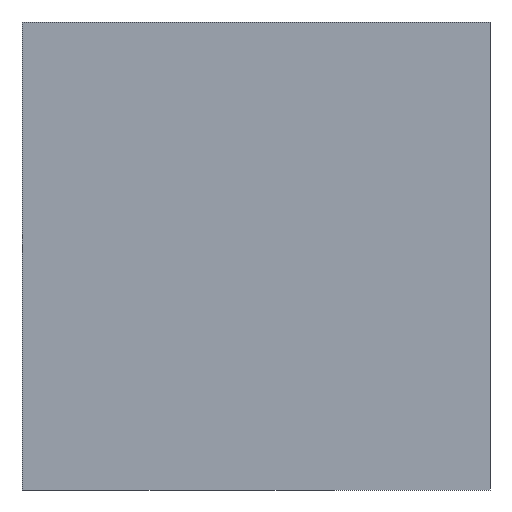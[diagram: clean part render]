
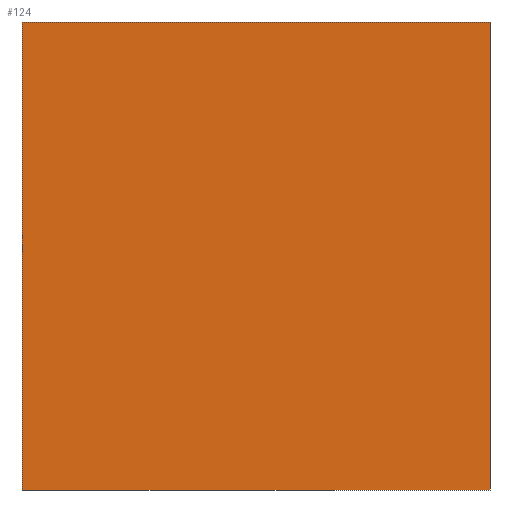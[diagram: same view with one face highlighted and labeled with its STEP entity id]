
A CAD part, left-side view. The second image highlights one B-rep face of the part: STEP entity #124.
In plain terms, the highlighted planar face has unit normal (-1, 0, 0).
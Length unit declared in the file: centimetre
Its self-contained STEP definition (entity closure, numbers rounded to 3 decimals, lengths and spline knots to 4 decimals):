
#19 = AXIS2_PLACEMENT_3D ( 'NONE', #115, #509, #357 ) ;
#30 = EDGE_CURVE ( 'NONE', #206, #283, #137, .T. ) ;
#34 = CARTESIAN_POINT ( 'NONE',  ( 0., 1000., 0. ) ) ;
#46 = ORIENTED_EDGE ( 'NONE', *, *, #30, .T. ) ;
#61 = VECTOR ( 'NONE', #113, 100. ) ;
#67 = VERTEX_POINT ( 'NONE', #216 ) ;
#74 = LINE ( 'NONE', #396, #487 ) ;
#99 = CARTESIAN_POINT ( 'NONE',  ( 0., 1000., 0. ) ) ;
#113 = DIRECTION ( 'NONE',  ( 0., -1., 0. ) ) ;
#115 = CARTESIAN_POINT ( 'NONE',  ( 0., 1000., 1000. ) ) ;
#124 = ADVANCED_FACE ( 'NONE', ( #223 ), #386, .F. ) ;
#136 = DIRECTION ( 'NONE',  ( 0., -1., 0. ) ) ;
#137 = LINE ( 'NONE', #99, #61 ) ;
#142 = CARTESIAN_POINT ( 'NONE',  ( 0., 1000., 1000. ) ) ;
#174 = VECTOR ( 'NONE', #136, 100. ) ;
#187 = EDGE_CURVE ( 'NONE', #414, #206, #74, .T. ) ;
#195 = DIRECTION ( 'NONE',  ( 0., 0., -1. ) ) ;
#206 = VERTEX_POINT ( 'NONE', #34 ) ;
#216 = CARTESIAN_POINT ( 'NONE',  ( 0., 0., 1000. ) ) ;
#223 = FACE_OUTER_BOUND ( 'NONE', #440, .T. ) ;
#247 = VECTOR ( 'NONE', #296, 100. ) ;
#283 = VERTEX_POINT ( 'NONE', #352 ) ;
#291 = ORIENTED_EDGE ( 'NONE', *, *, #393, .F. ) ;
#296 = DIRECTION ( 'NONE',  ( 0., 0., -1. ) ) ;
#335 = ORIENTED_EDGE ( 'NONE', *, *, #187, .T. ) ;
#346 = CARTESIAN_POINT ( 'NONE',  ( 0., 1000., 1000. ) ) ;
#350 = LINE ( 'NONE', #346, #174 ) ;
#352 = CARTESIAN_POINT ( 'NONE',  ( 0., 0., 0. ) ) ;
#357 = DIRECTION ( 'NONE',  ( 0., 0., -1. ) ) ;
#386 = PLANE ( 'NONE',  #19 ) ;
#393 = EDGE_CURVE ( 'NONE', #414, #67, #350, .T. ) ;
#396 = CARTESIAN_POINT ( 'NONE',  ( 0., 1000., 1000. ) ) ;
#414 = VERTEX_POINT ( 'NONE', #142 ) ;
#440 = EDGE_LOOP ( 'NONE', ( #46, #447, #291, #335 ) ) ;
#447 = ORIENTED_EDGE ( 'NONE', *, *, #468, .F. ) ;
#468 = EDGE_CURVE ( 'NONE', #67, #283, #469, .T. ) ;
#469 = LINE ( 'NONE', #502, #247 ) ;
#487 = VECTOR ( 'NONE', #195, 100. ) ;
#502 = CARTESIAN_POINT ( 'NONE',  ( 0., 0., 1000. ) ) ;
#509 = DIRECTION ( 'NONE',  ( 1., 0., 0. ) ) ;
